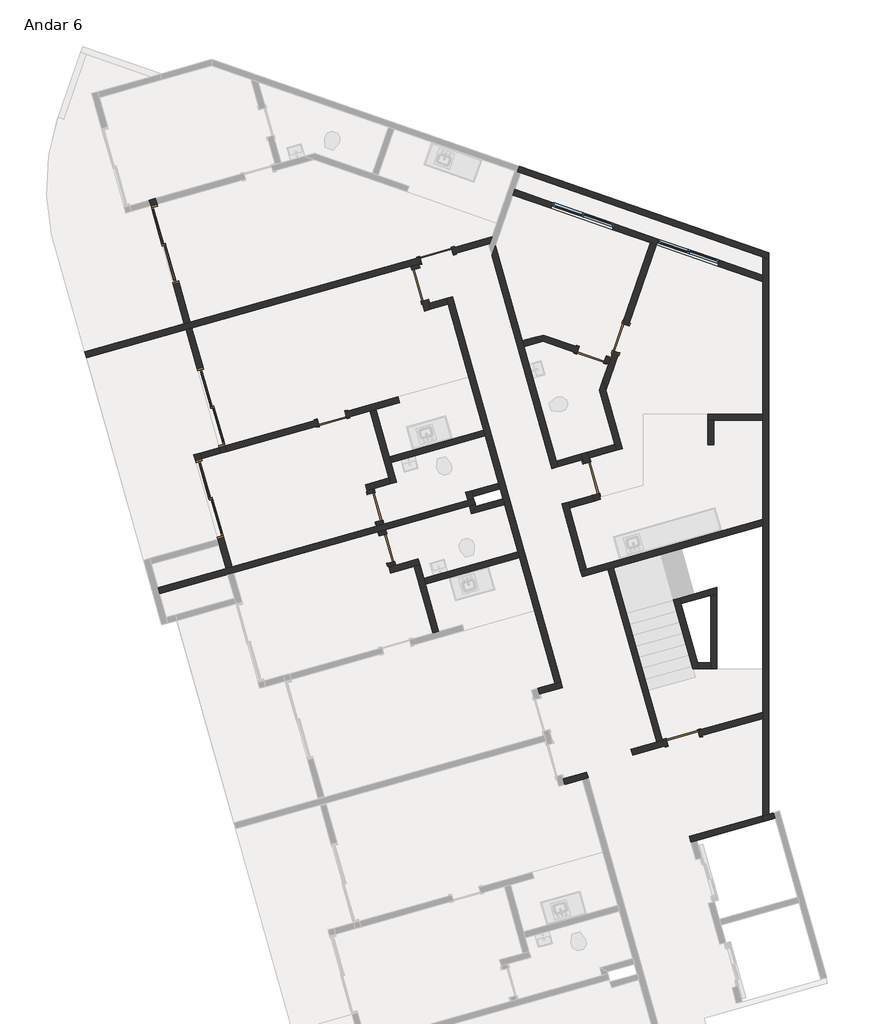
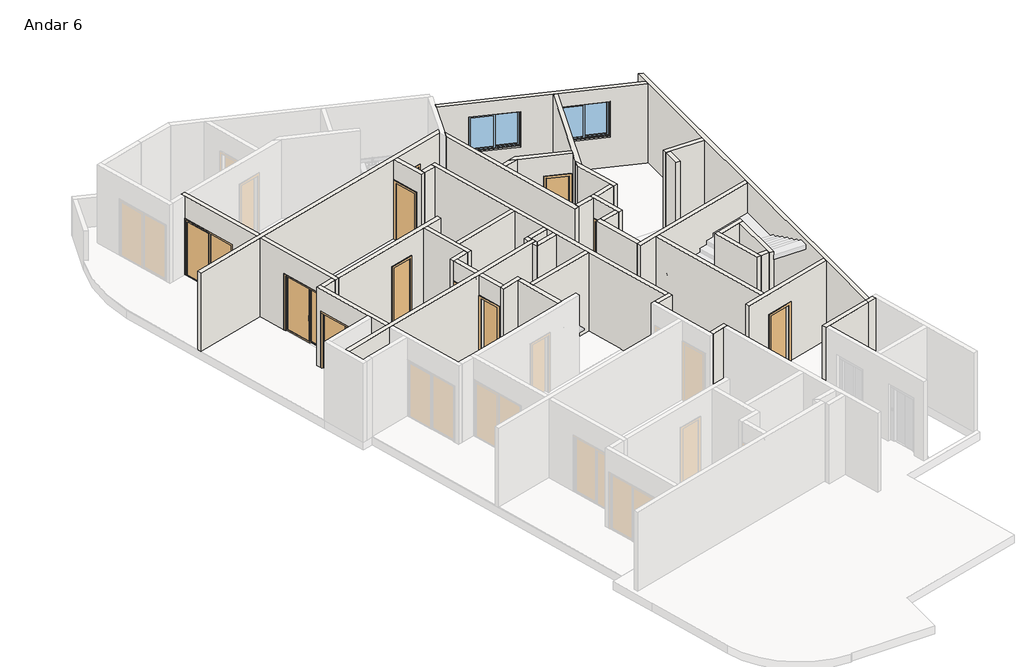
# One storey, part 2 of 3: 48 walls, 12 doors, 2 windows.
"""IFC4 building model written with IfcOpenShell, lengths in millimetres."""

from ifc_helpers import new_model, si_unit, frame, origin, place, context, project, spatial, polyline, outline, extrude, faceted_brep, transform, mapped, element, save
from components import p2_80cm_9d4be4ef, p2_80cm_083652d6, p3_70cm_ef4d15e3, p3_70cm_0a698c7c, p4_correr_200cm_eaaa0877, jx_160cm_e9e36a0c

model = new_model("IFC4")

# Units and contexts
model_context = context("Model", 3, world=origin())
ifc_project = project(units=[si_unit("LENGTHUNIT", "METRE", prefix="MILLI")], contexts=[model_context])

# Site, building, storey
site = spatial("IfcSite", under=ifc_project)
building = spatial("IfcBuilding", under=site)
storey = spatial("IfcBuildingStorey", under=building, Name="Andar 6", Elevation=68150.0)

# Doors
placement = place(None, origin())
p2_80cm_shape = p2_80cm_9d4be4ef(model_context)
element("IfcDoor", 1, ObjectType="M_Folha única1 : P2 - 80CM", at=placement, inside=storey, context=model_context, shape_type="MappedRepresentation", body=[
    mapped(p2_80cm_shape, transform((-83145.1128896, 30941.0402894, 68150.0), x_axis=(-0.9623628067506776, -0.2717679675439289, 0.0), y_axis=(0.2717679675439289, -0.9623628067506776, 0.0), z_axis=(0.0, 0.0, 1.0))),
])
element("IfcDoor", 2, ObjectType="M_Folha única1 : P2 - 80CM", at=placement, inside=storey, context=model_context, shape_type="MappedRepresentation", body=[
    mapped(p2_80cm_shape, transform((-79349.4097406, 25479.1041247, 68150.0), x_axis=(-0.27176796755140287, 0.962362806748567, 0.0), y_axis=(-0.962362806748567, -0.27176796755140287, 0.0), z_axis=(0.0, 0.0, 1.0))),
])
p2_80cm_2_shape = p2_80cm_083652d6(model_context)
element("IfcDoor", 3, ObjectType="M_Folha única1 : P2 - 80CM", at=placement, inside=storey, context=model_context, shape_type="MappedRepresentation", body=[
    mapped(p2_80cm_2_shape, transform((-83542.2049222, 30231.4150941, 68150.0), x_axis=(-0.2717679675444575, 0.9623628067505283, 0.0), y_axis=(-0.9623628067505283, -0.2717679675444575, 0.0), z_axis=(0.0, 0.0, 1.0))),
])
p3_70cm_shape = p3_70cm_ef4d15e3(model_context)
element("IfcDoor", 4, ObjectType="M_Folha única1 : P3 - 70CM", at=placement, inside=storey, context=model_context, shape_type="MappedRepresentation", body=[
    mapped(p3_70cm_shape, transform((-84650.97864, 24774.7108835, 68150.0), x_axis=(0.2717679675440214, -0.9623628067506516, 0.0), y_axis=(0.9623628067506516, 0.2717679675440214, 0.0), z_axis=(0.0, 0.0, 1.0))),
])
p3_70cm_2_shape = p3_70cm_0a698c7c(model_context)
element("IfcDoor", 5, ObjectType="M_Folha única1 : P3 - 70CM", at=placement, inside=storey, context=model_context, shape_type="MappedRepresentation", body=[
    mapped(p3_70cm_2_shape, transform((-84365.6222741, 23764.2299364, 68150.0), x_axis=(-0.2717679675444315, 0.9623628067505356, 0.0), y_axis=(-0.9623628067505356, -0.2717679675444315, 0.0), z_axis=(0.0, 0.0, 1.0))),
])
element("IfcDoor", 6, ObjectType="M_Folha única1 : P3 - 70CM", at=placement, inside=storey, context=model_context, shape_type="MappedRepresentation", body=[
    mapped(p3_70cm_2_shape, transform((-85705.4317558, 26944.8211633, 68150.0), x_axis=(0.9623628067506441, 0.2717679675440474, 0.0), y_axis=(-0.2717679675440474, 0.9623628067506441, 0.0), z_axis=(0.0, 0.0, 1.0))),
])
element("IfcDoor", 7, ObjectType="M_Folha única1 : P3 - 70CM", at=placement, inside=storey, context=model_context, shape_type="MappedRepresentation", body=[
    mapped(p3_70cm_2_shape, transform((-79346.1223746, 28509.6973665, 68150.0), x_axis=(0.9449109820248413, -0.32732741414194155, 0.0), y_axis=(0.32732741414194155, 0.9449109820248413, 0.0), z_axis=(0.0, 0.0, 1.0))),
])
element("IfcDoor", 8, ObjectType="M_Folha única1 : P3 - 70CM", at=placement, inside=storey, context=model_context, shape_type="MappedRepresentation", body=[
    mapped(p3_70cm_2_shape, transform((-78626.5662556, 28921.8732895, 68150.0), x_axis=(-0.32732741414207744, -0.9449109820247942, 0.0), y_axis=(0.9449109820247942, -0.32732741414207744, 0.0), z_axis=(0.0, 0.0, 1.0))),
])
p4_correr_200cm_shape = p4_correr_200cm_eaaa0877(model_context)
element("IfcDoor", 9, ObjectType="Porta de correr dupla envidraçada sem revestimento : P4 - CORRER - 200CM", at=placement, inside=storey, context=model_context, shape_type="MappedRepresentation", body=[
    mapped(p4_correr_200cm_shape, transform((-89799.7974026, 31217.9316171, 68150.0), x_axis=(0.27176796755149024, -0.9623628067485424, 0.0), y_axis=(0.9623628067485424, 0.27176796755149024, 0.0), z_axis=(0.0, 0.0, 1.0))),
])
element("IfcDoor", 10, ObjectType="Porta de correr dupla envidraçada sem revestimento : P4 - CORRER - 200CM", at=placement, inside=storey, context=model_context, shape_type="MappedRepresentation", body=[
    mapped(p4_correr_200cm_shape, transform((-88671.9603372, 27224.125969, 68150.0), x_axis=(-0.27176796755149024, 0.9623628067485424, 0.0), y_axis=(-0.9623628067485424, -0.27176796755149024, 0.0), z_axis=(0.0, 0.0, 1.0))),
])
element("IfcDoor", 11, ObjectType="Porta de correr dupla envidraçada sem revestimento : P4 - CORRER - 200CM", at=placement, inside=storey, context=model_context, shape_type="MappedRepresentation", body=[
    mapped(p4_correr_200cm_shape, transform((-88709.3738038, 24979.4758572, 68150.0), x_axis=(-0.2717679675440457, 0.9623628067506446, 0.0), y_axis=(-0.9623628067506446, -0.2717679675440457, 0.0), z_axis=(0.0, 0.0, 1.0))),
])
element("IfcDoor", 12, ObjectType="M_Folha única1 : PCF1 - 80CM", at=placement, inside=storey, context=model_context, shape_type="MappedRepresentation", body=[
    mapped(p2_80cm_shape, transform((-77103.5502958, 19127.1105693, 68150.0), x_axis=(-0.9623628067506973, -0.2717679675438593, 0.0), y_axis=(0.2717679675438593, -0.9623628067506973, 0.0), z_axis=(0.0, 0.0, 1.0))),
])

# Walls
element("IfcWall", 13, ObjectType="Básica .15 -  Interna", at=placement, inside=storey, context=model_context, shape_type="Brep", body=[
    faceted_brep([(-82901.0804648, 29892.9118737, 68150.0), (-82860.3152697, 29748.5574527, 68150.0), (-81990.6577736, 26668.9964711, 68150.0), (-81949.8925784, 26524.6420501, 68150.0), (-81623.7710174, 25369.806682, 68150.0), (-81583.0058223, 25225.452261, 68150.0), (-81515.0638304, 24984.8615593, 68150.0), (-81474.2986352, 24840.5071383, 68150.0), (-81148.1770742, 23685.6717702, 68150.0), (-81107.4118791, 23541.3173492, 68150.0), (-80237.7543829, 20461.7563676, 68150.0), (-80237.7543829, 20461.7563676, 71050.0), (-81107.4118791, 23541.3173492, 71050.0), (-81148.1770742, 23685.6717702, 71050.0), (-81474.2986352, 24840.5071383, 71050.0), (-81515.0638304, 24984.8615593, 71050.0), (-81583.0058223, 25225.452261, 71050.0), (-81623.7710174, 25369.806682, 71050.0), (-81949.8925784, 26524.6420501, 71050.0), (-81990.6577736, 26668.9964711, 71050.0), (-82860.3152697, 29748.5574527, 71050.0), (-82901.0804648, 29892.9118737, 71050.0), (-82756.7260438, 29933.6770689, 68150.0), (-82756.7260438, 29933.6770689, 71050.0), (-80093.3999619, 20502.5215627, 71050.0), (-80093.3999619, 20502.5215627, 68150.0)], [[[0, 1, 2, 3, 4, 5, 6, 7, 8, 9, 10, 11, 12, 13, 14, 15, 16, 17, 18, 19, 20, 21]], [[22, 23, 24, 25]], [[10, 9, 8, 7, 6, 5, 4, 3, 2, 1, 0, 22, 25]], [[21, 20, 19, 18, 17, 16, 15, 14, 13, 12, 11, 24, 23]], [[0, 21, 23, 22]], [[11, 10, 25, 24]]]),
])
element("IfcWall", 14, ObjectType="Básica .15 -  Interna", at=placement, inside=storey, context=model_context, shape_type="Brep", body=[
    faceted_brep([(-83750.2661164, 30692.2138999, 68150.0), (-83723.0893197, 30595.9776193, 68150.0), (-83723.0893197, 30595.9776193, 70250.0), (-83505.6749457, 29826.0873739, 70250.0), (-83505.6749457, 29826.0873739, 68150.0), (-83437.7329538, 29585.4966722, 68150.0), (-83437.7329538, 29585.4966722, 71050.0), (-83750.2661164, 30692.2138999, 71050.0), (-83578.7348987, 30636.7428144, 70250.0), (-83578.7348987, 30636.7428144, 68150.0), (-83605.9116954, 30732.9790951, 68150.0), (-83605.9116954, 30732.9790951, 71050.0), (-83334.1437279, 29770.6162883, 71050.0), (-83293.3785328, 29626.2618673, 71050.0), (-83293.3785328, 29626.2618673, 68150.0), (-83334.1437279, 29770.6162883, 68150.0), (-83361.3205246, 29866.852569, 68150.0), (-83361.3205246, 29866.852569, 70250.0)], [[[0, 1, 2, 3, 4, 5, 6, 7]], [[8, 9, 10, 11, 12, 13, 14, 15, 16, 17]], [[10, 9, 1, 0]], [[16, 15, 14, 5, 4]], [[7, 6, 13, 12, 11]], [[6, 5, 14, 13]], [[0, 7, 11, 10]], [[2, 1, 9, 8]], [[3, 2, 8, 17]], [[4, 3, 17, 16]]]),
])
element("IfcWall", 15, ObjectType="Básica .15 -  Interna", at=placement, inside=storey, context=model_context, shape_type="SweptSolid", body=[
    extrude(outline(polyline([(-82860.3152697, 29748.5574527), (-83293.3785328, 29626.2618673), (-83334.1437279, 29770.6162883), (-82901.0804648, 29892.9118737), (-82860.3152697, 29748.5574527)])), frame((0.0, 0.0, 68150.0), z_axis=(0.0, 0.0, 1.0), x_axis=(1.0, 0.0, 0.0)), (0.0, 0.0, 1.0), 2900.0),
])
element("IfcWall", 16, ObjectType="Básica .15 -  Interna", at=placement, inside=storey, context=model_context, shape_type="Brep", body=[
    faceted_brep([(-80093.3999619, 20502.5215627, 68150.0), (-80237.7543829, 20461.7563676, 68150.0), (-80670.817646, 20339.4607822, 68150.0), (-80670.817646, 20339.4607822, 71050.0), (-80237.7543829, 20461.7563676, 71050.0), (-80093.3999619, 20502.5215627, 71050.0), (-80052.6347668, 20358.1671417, 68150.0), (-80052.6347668, 20358.1671417, 71050.0), (-80630.0524508, 20195.1063612, 71050.0), (-80630.0524508, 20195.1063612, 68150.0)], [[[0, 1, 2, 3, 4, 5]], [[6, 7, 8, 9]], [[2, 1, 0, 6, 9]], [[5, 4, 3, 8, 7]], [[3, 2, 9, 8]], [[0, 5, 7, 6]]]),
])
element("IfcWall", 17, ObjectType="Básica .15 -  Interna", at=placement, inside=storey, context=model_context, shape_type="Brep", body=[
    faceted_brep([(-80004.9861255, 17981.6719056, 68150.0), (-79571.9228624, 18103.967491, 68150.0), (-79427.5684414, 18144.7326862, 68150.0), (-79427.5684414, 18144.7326862, 71050.0), (-79571.9228624, 18103.967491, 71050.0), (-80004.9861255, 17981.6719056, 71050.0), (-80045.7513206, 18126.0263266, 68150.0), (-80045.7513206, 18126.0263266, 71050.0), (-79468.3336366, 18289.0871072, 71050.0), (-79468.3336366, 18289.0871072, 68150.0)], [[[0, 1, 2, 3, 4, 5]], [[6, 7, 8, 9]], [[2, 1, 0, 6, 9]], [[5, 4, 3, 8, 7]], [[3, 2, 9, 8]], [[0, 5, 7, 6]]]),
])
element("IfcWall", 18, ObjectType="Básica .15 -  Interna", at=placement, inside=storey, context=model_context, shape_type="Brep", body=[
    faceted_brep([(-88305.9570711, 23274.9583478, 71050.0), (-88469.0178517, 23852.3760319, 71050.0), (-88509.7830468, 23996.7304529, 71050.0), (-89094.084177, 26065.8104874, 71050.0), (-89094.084177, 26065.8104874, 68150.0), (-89053.3189819, 25921.4560664, 68150.0), (-89053.3189819, 25921.4560664, 70250.0), (-88509.7830468, 23996.7304529, 70250.0), (-88509.7830468, 23996.7304529, 68150.0), (-88469.0178517, 23852.3760319, 68150.0), (-88305.9570711, 23274.9583478, 68150.0), (-88949.729756, 26106.5756825, 71050.0), (-88908.9645609, 25962.2212615, 71050.0), (-88161.6026501, 23315.723543, 71050.0), (-88161.6026501, 23315.723543, 68150.0), (-88365.4286258, 24037.495648, 68150.0), (-88365.4286258, 24037.495648, 70250.0), (-88908.9645609, 25962.2212615, 70250.0), (-88908.9645609, 25962.2212615, 68150.0), (-88949.729756, 26106.5756825, 68150.0)], [[[0, 1, 2, 3, 4, 5, 6, 7, 8, 9, 10]], [[11, 12, 13, 14, 15, 16, 17, 18, 19]], [[4, 19, 18, 5]], [[14, 10, 9, 8, 15]], [[3, 2, 1, 0, 13, 12, 11]], [[4, 3, 11, 19]], [[0, 10, 14, 13]], [[17, 6, 5, 18]], [[6, 17, 16, 7]], [[7, 16, 15, 8]]]),
])
element("IfcWall", 19, ObjectType="Básica .15 -  Interna", at=placement, inside=storey, context=model_context, shape_type="Brep", body=[
    faceted_brep([(-89143.3190618, 29169.2341801, 71050.0), (-88328.0151592, 26282.1457598, 71050.0), (-88287.249964, 26137.7913388, 71050.0), (-88287.249964, 26137.7913388, 68150.0), (-88328.0151592, 26282.1457598, 68150.0), (-88328.0151592, 26282.1457598, 70250.0), (-88871.5510943, 28206.8713733, 70250.0), (-88871.5510943, 28206.8713733, 68150.0), (-89143.3190618, 29169.2341801, 68150.0), (-88431.604385, 26097.0261437, 71050.0), (-88472.3695802, 26241.3805647, 71050.0), (-89287.6734828, 29128.468985, 71050.0), (-89287.6734828, 29128.468985, 68150.0), (-89015.9055153, 28166.1061782, 68150.0), (-89015.9055153, 28166.1061782, 70250.0), (-88472.3695802, 26241.3805647, 70250.0), (-88472.3695802, 26241.3805647, 68150.0), (-88431.604385, 26097.0261437, 68150.0)], [[[0, 1, 2, 3, 4, 5, 6, 7, 8]], [[9, 10, 11, 12, 13, 14, 15, 16, 17]], [[3, 17, 16, 4]], [[12, 8, 7, 13]], [[2, 1, 0, 11, 10, 9]], [[3, 2, 9, 17]], [[0, 8, 12, 11]], [[6, 14, 13, 7]], [[14, 6, 5, 15]], [[15, 5, 4, 16]]]),
])
element("IfcWall", 20, ObjectType="Básica .15 -  Interna", at=placement, inside=storey, context=model_context, shape_type="Brep", body=[
    faceted_brep([(-76904.7538909, 16570.3643175, 68150.0), (-76760.3994699, 16611.1295126, 68150.0), (-75147.8282189, 17066.5141226, 68150.0), (-75147.8282189, 17066.5141226, 71050.0), (-76760.3994699, 16611.1295126, 71050.0), (-76904.7538909, 16570.3643175, 71050.0), (-76945.5190861, 16714.7187385, 68150.0), (-76945.5190861, 16714.7187385, 71050.0), (-75147.8282189, 17222.3804954, 71050.0), (-75147.8282189, 17222.3804954, 68150.0)], [[[0, 1, 2, 3, 4, 5]], [[6, 7, 8, 9]], [[2, 1, 0, 6, 9]], [[5, 4, 3, 8, 7]], [[0, 5, 7, 6]], [[3, 2, 9, 8]]]),
])
element("IfcWall", 21, ObjectType="Básica .15 -  Interna", at=placement, inside=storey, context=model_context, shape_type="Brep", body=[
    faceted_brep([(-79570.9048554, 23078.5590693, 68150.0), (-78948.2127609, 23254.4051886, 68150.0), (-78803.8582924, 23295.1703972, 68150.0), (-75147.8282189, 24327.6207947, 68150.0), (-75147.8282189, 24327.6207947, 71050.0), (-78803.8582924, 23295.1703972, 71050.0), (-78948.2127609, 23254.4051886, 71050.0), (-79570.9048554, 23078.5590693, 71050.0), (-79611.6700506, 23222.9134903, 68150.0), (-79611.6700506, 23222.9134903, 71050.0), (-79467.3156296, 23263.6786855, 71050.0), (-75147.8282189, 24483.4871675, 71050.0), (-75147.8282189, 24483.4871675, 68150.0), (-79467.3156296, 23263.6786855, 68150.0)], [[[0, 1, 2, 3, 4, 5, 6, 7]], [[8, 9, 10, 11, 12, 13]], [[3, 2, 1, 0, 8, 13, 12]], [[7, 6, 5, 4, 11, 10, 9]], [[0, 7, 9, 8]], [[4, 3, 12, 11]]]),
])
element("IfcWall", 22, ObjectType="Básica .15 -  Interna", at=placement, inside=storey, context=model_context, shape_type="SweptSolid", body=[
    extrude(outline(polyline([(-77749.4687652, 19022.6385875), (-78948.2127609, 23254.4051886), (-78803.8582924, 23295.1703972), (-77605.1142967, 19063.4037961), (-77749.4687652, 19022.6385875)])), frame((0.0, 0.0, 68150.0), z_axis=(0.0, 0.0, 1.0), x_axis=(1.0, 0.0, 0.0)), (0.0, 0.0, 1.0), 2900.0),
])
element("IfcWall", 23, ObjectType="Básica .15 -  Interna", at=placement, inside=storey, context=model_context, shape_type="Brep", body=[
    faceted_brep([(-77508.878016, 19090.5805928, 70250.0), (-77508.878016, 19090.5805928, 68150.0), (-77605.1142967, 19063.4037961, 68150.0), (-77749.4687652, 19022.6385875, 68150.0), (-78375.5945972, 18845.8227925, 68150.0), (-78375.5945972, 18845.8227925, 71050.0), (-77749.4687652, 19022.6385875, 71050.0), (-77605.1142967, 19063.4037961, 71050.0), (-75147.8282189, 19757.3329862, 71050.0), (-75147.8282189, 19757.3329862, 68150.0), (-76738.9877706, 19307.9949669, 68150.0), (-76738.9877706, 19307.9949669, 70250.0), (-78334.829402, 18701.4683715, 68150.0), (-77468.1128209, 18946.2261718, 68150.0), (-77468.1128209, 18946.2261718, 70250.0), (-76698.2225755, 19163.6405459, 70250.0), (-76698.2225755, 19163.6405459, 68150.0), (-75147.8282189, 19601.4666134, 68150.0), (-75147.8282189, 19601.4666134, 71050.0), (-78334.829402, 18701.4683715, 71050.0)], [[[0, 1, 2, 3, 4, 5, 6, 7, 8, 9, 10, 11]], [[12, 13, 14, 15, 16, 17, 18, 19]], [[10, 9, 17, 16]], [[4, 3, 2, 1, 13, 12]], [[5, 4, 12, 19]], [[8, 7, 6, 5, 19, 18]], [[14, 13, 1, 0]], [[15, 14, 0, 11]], [[16, 15, 11, 10]], [[9, 8, 18, 17]]]),
])
element("IfcWall", 24, ObjectType="Básica .15 - Externa", at=placement, inside=storey, context=model_context, shape_type="Brep", body=[
    faceted_brep([(-75147.8282189, 30909.9128092, 71050.0), (-75147.8282189, 30909.9128092, 68150.0), (-75147.8282189, 30461.6117638, 68150.0), (-75147.8282189, 30302.8666514, 68150.0), (-75147.8282189, 27060.8243598, 68150.0), (-75147.8282189, 26910.8243598, 68150.0), (-75147.8282189, 24483.4871675, 68150.0), (-75147.8282189, 24327.6207947, 68150.0), (-75147.8282189, 19757.3329862, 68150.0), (-75147.8282189, 19601.4666134, 68150.0), (-75147.8282189, 17222.3804954, 68150.0), (-75147.8282189, 17222.3804954, 71050.0), (-75147.8282189, 19601.4666134, 71050.0), (-75147.8282189, 19757.3329862, 71050.0), (-75147.8282189, 24327.6207947, 71050.0), (-75147.8282189, 24483.4871675, 71050.0), (-75147.8282189, 26910.8243598, 71050.0), (-75147.8282189, 27060.8243598, 71050.0), (-75147.8282189, 30302.8666514, 71050.0), (-75147.8282189, 30461.6117638, 71050.0), (-74997.8282189, 30857.9511821, 68150.0), (-74997.8282189, 30857.9511821, 69450.0), (-74997.8282189, 30857.9511821, 70750.0), (-74997.8282189, 30857.9511821, 71050.0), (-74997.8282189, 17264.7399828, 71050.0), (-74997.8282189, 17264.7399828, 68150.0)], [[[0, 1, 2, 3, 4, 5, 6, 7, 8, 9, 10, 11, 12, 13, 14, 15, 16, 17, 18, 19]], [[20, 21, 22, 23, 24, 25]], [[10, 9, 8, 7, 6, 5, 4, 3, 2, 1, 20, 25]], [[0, 19, 18, 17, 16, 15, 14, 13, 12, 11, 24, 23]], [[11, 10, 25, 24]], [[0, 23, 22, 21, 20, 1]]]),
])
element("IfcWall", 25, ObjectType="Básica .15 -  Interna", at=placement, inside=storey, context=model_context, shape_type="Brep", body=[
    faceted_brep([(-80073.6755954, 24858.9302618, 68150.0), (-79611.6700506, 23222.9134903, 68150.0), (-79611.6700506, 23222.9134903, 71050.0), (-80073.6755954, 24858.9302618, 71050.0), (-79929.3211744, 24899.695457, 68150.0), (-79929.3211744, 24899.695457, 71050.0), (-79888.5559793, 24755.3410359, 71050.0), (-79467.3156296, 23263.6786855, 71050.0), (-79467.3156296, 23263.6786855, 68150.0), (-79888.5559793, 24755.3410359, 68150.0)], [[[0, 1, 2, 3]], [[4, 5, 6, 7, 8, 9]], [[1, 0, 4, 9, 8]], [[3, 2, 7, 6, 5]], [[0, 3, 5, 4]], [[2, 1, 8, 7]]]),
])
element("IfcWall", 26, ObjectType="Básica .15 -  Interna", at=placement, inside=storey, context=model_context, shape_type="Brep", body=[
    faceted_brep([(-79888.5559793, 24755.3410359, 68150.0), (-79272.1145689, 24929.4219834, 68150.0), (-79272.1145689, 24929.4219834, 71050.0), (-79888.5559793, 24755.3410359, 71050.0), (-79929.3211744, 24899.695457, 68150.0), (-79929.3211744, 24899.695457, 71050.0), (-79312.8797641, 25073.7764044, 71050.0), (-79312.8797641, 25073.7764044, 70250.0), (-79312.8797641, 25073.7764044, 68150.0)], [[[0, 1, 2, 3]], [[4, 5, 6, 7, 8]], [[1, 0, 4, 8]], [[3, 2, 6, 5]], [[0, 3, 5, 4]], [[2, 1, 8, 7, 6]]]),
])
element("IfcWall", 27, ObjectType="Básica .15 -  Interna", at=placement, inside=storey, context=model_context, shape_type="Brep", body=[
    faceted_brep([(-79598.23613, 26084.2573515, 68150.0), (-79557.4709349, 25939.9029305, 68150.0), (-79530.2941381, 25843.6666498, 68150.0), (-79530.2941381, 25843.6666498, 70250.0), (-79312.8797641, 25073.7764044, 70250.0), (-79312.8797641, 25073.7764044, 68150.0), (-79272.1145689, 24929.4219834, 68150.0), (-79272.1145689, 24929.4219834, 71050.0), (-79312.8797641, 25073.7764044, 71050.0), (-79557.4709349, 25939.9029305, 71050.0), (-79598.23613, 26084.2573515, 71050.0), (-79385.9397171, 25884.4318449, 70250.0), (-79385.9397171, 25884.4318449, 68150.0), (-79413.1165138, 25980.6681256, 68150.0), (-79453.881709, 26125.0225466, 68150.0), (-79453.881709, 26125.0225466, 71050.0), (-79413.1165138, 25980.6681256, 71050.0), (-79127.7601479, 24970.1871785, 71050.0), (-79127.7601479, 24970.1871785, 68150.0), (-79168.5253431, 25114.5415995, 68150.0), (-79168.5253431, 25114.5415995, 70250.0)], [[[0, 1, 2, 3, 4, 5, 6, 7, 8, 9, 10]], [[11, 12, 13, 14, 15, 16, 17, 18, 19, 20]], [[19, 18, 6, 5]], [[14, 13, 12, 2, 1, 0]], [[10, 9, 8, 7, 17, 16, 15]], [[7, 6, 18, 17]], [[0, 10, 15, 14]], [[3, 2, 12, 11]], [[4, 3, 11, 20]], [[5, 4, 20, 19]]]),
])
element("IfcWall", 28, ObjectType="Básica .15 -  Interna", at=placement, inside=storey, context=model_context, shape_type="Brep", body=[
    faceted_brep([(-81789.2550074, 30934.0017027, 68150.0), (-80318.2667662, 25725.0567879, 68150.0), (-80318.2667662, 25725.0567879, 71050.0), (-81789.2550074, 30934.0017027, 71050.0), (-81703.3880158, 31181.8778654, 68150.0), (-81703.3880158, 31181.8778654, 71050.0), (-81045.1503443, 28850.9797144, 71050.0), (-81004.3851492, 28706.6252933, 71050.0), (-80214.6775403, 25910.176404, 71050.0), (-80173.9123452, 25765.821983, 71050.0), (-80173.9123452, 25765.821983, 68150.0), (-80214.6775403, 25910.176404, 68150.0), (-81004.3851492, 28706.6252933, 68150.0), (-81045.1503443, 28850.9797144, 68150.0)], [[[0, 1, 2, 3]], [[4, 5, 6, 7, 8, 9, 10, 11, 12, 13]], [[1, 0, 4, 13, 12, 11, 10]], [[3, 2, 9, 8, 7, 6, 5]], [[0, 3, 5, 4]], [[2, 1, 10, 9]]]),
])
element("IfcWall", 29, ObjectType="Básica .15 -  Interna", at=placement, inside=storey, context=model_context, shape_type="Brep", body=[
    faceted_brep([(-88908.9645609, 25962.2212615, 68150.0), (-88431.604385, 26097.0261437, 68150.0), (-88431.604385, 26097.0261437, 71050.0), (-88908.9645609, 25962.2212615, 71050.0), (-88908.9645609, 25962.2212615, 70250.0), (-88949.729756, 26106.5756825, 68150.0), (-88949.729756, 26106.5756825, 71050.0), (-88472.3695802, 26241.3805647, 71050.0), (-88472.3695802, 26241.3805647, 68150.0)], [[[0, 1, 2, 3, 4]], [[5, 6, 7, 8]], [[1, 0, 5, 8]], [[3, 2, 7, 6]], [[0, 4, 3, 6, 5]], [[2, 1, 8, 7]]]),
])
element("IfcWall", 30, ObjectType="Básica .15 -  Interna", at=placement, inside=storey, context=model_context, shape_type="SweptSolid", body=[
    extrude(outline(polyline([(-79557.4709349, 25939.9029305), (-80173.9123452, 25765.821983), (-80214.6775403, 25910.176404), (-79598.23613, 26084.2573515), (-79557.4709349, 25939.9029305)])), frame((0.0, 0.0, 68150.0), z_axis=(0.0, 0.0, 1.0), x_axis=(1.0, 0.0, 0.0)), (0.0, 0.0, 1.0), 2900.0),
])
element("IfcWall", 31, ObjectType="Básica .15 -  Interna", at=placement, inside=storey, context=model_context, shape_type="Brep", body=[
    faceted_brep([(-91725.2428613, 28440.1077234, 68150.0), (-89287.6734828, 29128.468985, 68150.0), (-89143.3190618, 29169.2341801, 68150.0), (-83750.2661164, 30692.2138999, 68150.0), (-83605.9116954, 30732.9790951, 68150.0), (-83509.6754148, 30760.1558918, 68150.0), (-83509.6754148, 30760.1558918, 70250.0), (-82739.7851694, 30977.5702659, 70250.0), (-82739.7851694, 30977.5702659, 68150.0), (-81845.4155775, 31230.1371819, 68150.0), (-81845.4155775, 31230.1371819, 71050.0), (-83605.9116954, 30732.9790951, 71050.0), (-83750.2661164, 30692.2138999, 71050.0), (-89143.3190618, 29169.2341801, 71050.0), (-89287.6734828, 29128.468985, 71050.0), (-91725.2428613, 28440.1077234, 71050.0), (-83550.4406099, 30904.5103128, 70250.0), (-83550.4406099, 30904.5103128, 68150.0), (-89184.084257, 29313.5886011, 68150.0), (-89328.438678, 29272.823406, 68150.0), (-91766.0080564, 28584.4621444, 68150.0), (-91766.0080564, 28584.4621444, 71050.0), (-89328.438678, 29272.823406, 71050.0), (-89184.084257, 29313.5886011, 71050.0), (-81785.5670817, 31402.9045654, 71050.0), (-81785.5670817, 31402.9045654, 68150.0), (-82780.5503645, 31121.9246869, 68150.0), (-82780.5503645, 31121.9246869, 70250.0)], [[[0, 1, 2, 3, 4, 5, 6, 7, 8, 9, 10, 11, 12, 13, 14, 15]], [[16, 17, 18, 19, 20, 21, 22, 23, 24, 25, 26, 27]], [[26, 25, 9, 8]], [[20, 19, 18, 17, 5, 4, 3, 2, 1, 0]], [[15, 14, 13, 12, 11, 10, 24, 23, 22, 21]], [[0, 15, 21, 20]], [[10, 9, 25, 24]], [[6, 5, 17, 16]], [[7, 6, 16, 27]], [[8, 7, 27, 26]]]),
])
element("IfcWall", 32, ObjectType="Básica .15 -  Interna", at=placement, inside=storey, context=model_context, shape_type="Brep", body=[
    faceted_brep([(-90040.1533547, 32345.0314424, 71050.0), (-89999.3881596, 32200.6770214, 71050.0), (-89184.084257, 29313.5886011, 71050.0), (-89184.084257, 29313.5886011, 68150.0), (-89455.8522245, 30275.9514079, 68150.0), (-89455.8522245, 30275.9514079, 70250.0), (-89999.3881596, 32200.6770214, 70250.0), (-89999.3881596, 32200.6770214, 68150.0), (-90040.1533547, 32345.0314424, 68150.0), (-89328.438678, 29272.823406, 71050.0), (-90143.7425806, 32159.9118263, 71050.0), (-90184.5077758, 32304.2662473, 71050.0), (-90184.5077758, 32304.2662473, 68150.0), (-90143.7425806, 32159.9118262, 68150.0), (-90143.7425806, 32159.9118262, 70250.0), (-89600.2066455, 30235.1862128, 70250.0), (-89600.2066455, 30235.1862128, 68150.0), (-89328.438678, 29272.823406, 68150.0)], [[[0, 1, 2, 3, 4, 5, 6, 7, 8]], [[9, 10, 11, 12, 13, 14, 15, 16, 17]], [[12, 8, 7, 13]], [[3, 17, 16, 4]], [[2, 1, 0, 11, 10, 9]], [[0, 8, 12, 11]], [[3, 2, 9, 17]], [[15, 5, 4, 16]], [[5, 15, 14, 6]], [[6, 14, 13, 7]]]),
])
element("IfcWall", 33, ObjectType="Básica .15 -  Interna", at=placement, inside=storey, context=model_context, shape_type="Brep", body=[
    faceted_brep([(-89936.6922366, 22658.5779377, 68150.0), (-88265.191876, 23130.6039268, 68150.0), (-88120.837455, 23171.369122, 68150.0), (-84560.09507, 24176.9106019, 68150.0), (-84415.740649, 24217.675797, 68150.0), (-82192.6825654, 24845.459802, 68150.0), (-82192.6825654, 24845.459802, 71050.0), (-84415.740649, 24217.675797, 71050.0), (-84560.09507, 24176.9106019, 71050.0), (-88120.837455, 23171.369122, 71050.0), (-88265.191876, 23130.6039268, 71050.0), (-89936.6922366, 22658.5779377, 71050.0), (-89977.4574318, 22802.9323587, 68150.0), (-89977.4574318, 22802.9323587, 71050.0), (-88305.9570711, 23274.9583478, 71050.0), (-88161.6026501, 23315.723543, 71050.0), (-84600.8602651, 24321.2650229, 71050.0), (-84456.5058441, 24362.030218, 71050.0), (-82233.4477605, 24989.814223, 71050.0), (-82233.4477605, 24989.814223, 68150.0), (-84456.5058441, 24362.030218, 68150.0), (-84600.8602651, 24321.2650229, 68150.0), (-88161.6026501, 23315.723543, 68150.0), (-88305.9570711, 23274.9583478, 68150.0)], [[[0, 1, 2, 3, 4, 5, 6, 7, 8, 9, 10, 11]], [[12, 13, 14, 15, 16, 17, 18, 19, 20, 21, 22, 23]], [[5, 4, 3, 2, 1, 0, 12, 23, 22, 21, 20, 19]], [[6, 5, 19, 18]], [[11, 10, 9, 8, 7, 6, 18, 17, 16, 15, 14, 13]], [[0, 11, 13, 12]]]),
])
element("IfcWall", 34, ObjectType="Básica .15 -  Interna", at=placement, inside=storey, context=model_context, shape_type="Brep", body=[
    faceted_brep([(-81272.8781344, 32424.6503839, 68150.0), (-77897.5766162, 31255.4093243, 68150.0), (-77755.8399689, 31206.3102121, 68150.0), (-75147.8282189, 30302.8666514, 68150.0), (-75147.8282189, 30302.8666514, 71050.0), (-77755.8399689, 31206.3102121, 71050.0), (-77897.5766162, 31255.4093243, 71050.0), (-81272.8781344, 32424.6503839, 71050.0), (-78829.2985897, 31578.1679228, 69250.0), (-80341.1561609, 32101.8917854, 69250.0), (-80341.1561609, 32101.8917854, 70550.0), (-78829.2985897, 31578.1679228, 70550.0), (-76243.9823976, 30682.5863495, 69250.0), (-77755.8399689, 31206.3102121, 69250.0), (-77755.8399689, 31206.3102121, 70550.0), (-76243.9823976, 30682.5863495, 70550.0), (-81223.7790223, 32566.3870312, 68150.0), (-81223.7790223, 32566.3870312, 71050.0), (-75147.8282189, 30461.6117638, 71050.0), (-75147.8282189, 30461.6117638, 68150.0), (-78780.1994776, 31719.9045701, 69250.0), (-78780.1994776, 31719.9045701, 70550.0), (-80292.0570488, 32243.6284327, 70550.0), (-80292.0570488, 32243.6284327, 69250.0), (-76194.8832855, 30824.3229968, 69250.0), (-76194.8832855, 30824.3229968, 70550.0), (-77706.7408568, 31348.0468595, 70550.0), (-77706.7408568, 31348.0468595, 69250.0)], [[[0, 1, 2, 3, 4, 5, 6, 7], [8, 9, 10, 11], [12, 13, 14, 15]], [[16, 17, 18, 19], [20, 21, 22, 23], [24, 25, 26, 27]], [[3, 2, 1, 0, 16, 19]], [[7, 6, 5, 4, 18, 17]], [[0, 7, 17, 16]], [[21, 20, 8, 11]], [[22, 21, 11, 10]], [[23, 22, 10, 9]], [[20, 23, 9, 8]], [[25, 24, 12, 15]], [[26, 25, 15, 14]], [[27, 26, 14, 13]], [[24, 27, 13, 12]], [[4, 3, 19, 18]]]),
])
element("IfcWall", 35, ObjectType="Básica .15 - Externa", at=placement, inside=storey, context=model_context, shape_type="Brep", body=[
    faceted_brep([(-81156.3583355, 32991.3328194, 69450.0), (-81156.3583355, 32991.3328194, 68150.0), (-81156.3583355, 32991.3328194, 67850.0), (-81085.1216301, 32966.655652, 67850.0), (-74997.8282189, 30857.9511821, 67850.0), (-74997.8282189, 30857.9511821, 68150.0), (-74997.8282189, 30857.9511821, 69450.0), (-81085.1216301, 32966.655652, 69450.0), (-81107.2592234, 33133.0694667, 67850.0), (-81107.2592234, 33133.0694667, 68150.0), (-81107.2592234, 33133.0694667, 69450.0), (-81036.022518, 33108.3922993, 69450.0), (-74997.8282189, 31016.6962944, 69450.0), (-74997.8282189, 31016.6962944, 67850.0), (-81036.022518, 33108.3922993, 67850.0)], [[[0, 1, 2, 3, 4, 5, 6, 7]], [[8, 9, 10, 11, 12, 13, 14]], [[4, 3, 2, 8, 14, 13]], [[0, 7, 6, 12, 11, 10]], [[0, 10, 9, 8, 2, 1]], [[4, 13, 12, 6, 5]]]),
])
element("IfcWall", 36, ObjectType="Básica .15 -  Interna", at=placement, inside=storey, context=model_context, shape_type="SweptSolid", body=[
    extrude(outline(polyline([(-82179.094167, 24797.3416617), (-81515.0638304, 24984.8615593), (-81474.2986352, 24840.5071383), (-82282.6833929, 24612.2220455), (-82179.094167, 24797.3416617)])), frame((0.0, 0.0, 68150.0), z_axis=(0.0, 0.0, 1.0), x_axis=(1.0, 0.0, 0.0)), (0.0, 0.0, 1.0), 2900.0),
])
element("IfcWall", 37, ObjectType="Básica .15 -  Interna", at=placement, inside=storey, context=model_context, shape_type="SweptSolid", body=[
    extrude(outline(polyline([(-82192.6825654, 24845.459802), (-82179.094167, 24797.3416617), (-82282.6833929, 24612.2220455), (-82337.0369864, 24804.6946069), (-82192.6825654, 24845.459802)])), frame((0.0, 0.0, 68150.0), z_axis=(0.0, 0.0, 1.0), x_axis=(1.0, 0.0, 0.0)), (0.0, 0.0, 1.0), 2900.0),
])
element("IfcWall", 38, ObjectType="Básica .15 -  Interna", at=placement, inside=storey, context=model_context, shape_type="Brep", body=[
    faceted_brep([(-83593.7317942, 23514.6100515, 68150.0), (-84171.1494782, 23351.5492709, 68150.0), (-84315.5038992, 23310.7840758, 68150.0), (-84315.5038992, 23310.7840758, 71050.0), (-84171.1494782, 23351.5492709, 71050.0), (-83593.7317942, 23514.6100515, 71050.0), (-83552.966599, 23370.2556304, 68150.0), (-83552.966599, 23370.2556304, 71050.0), (-83697.32102, 23329.4904353, 71050.0), (-84274.7387041, 23166.4296548, 71050.0), (-84274.7387041, 23166.4296548, 68150.0), (-83697.32102, 23329.4904353, 68150.0)], [[[0, 1, 2, 3, 4, 5]], [[6, 7, 8, 9, 10, 11]], [[2, 1, 0, 6, 11, 10]], [[5, 4, 3, 9, 8, 7]], [[0, 5, 7, 6]], [[3, 2, 10, 9]]]),
])
element("IfcWall", 39, ObjectType="Básica .15 -  Interna", at=placement, inside=storey, context=model_context, shape_type="Brep", body=[
    faceted_brep([(-83090.9610542, 21734.238859, 68150.0), (-83417.0826153, 22889.0742271, 68150.0), (-83457.8478104, 23033.4286481, 68150.0), (-83552.966599, 23370.2556304, 68150.0), (-83552.966599, 23370.2556304, 71050.0), (-83457.8478104, 23033.4286481, 71050.0), (-83417.0826153, 22889.0742271, 71050.0), (-83090.9610542, 21734.238859, 71050.0), (-83235.3154752, 21693.4736638, 68150.0), (-83235.3154752, 21693.4736638, 71050.0), (-83697.32102, 23329.4904353, 71050.0), (-83697.32102, 23329.4904353, 68150.0)], [[[0, 1, 2, 3, 4, 5, 6, 7]], [[8, 9, 10, 11]], [[3, 2, 1, 0, 8, 11]], [[7, 6, 5, 4, 10, 9]], [[0, 7, 9, 8]], [[4, 3, 11, 10]]]),
])
element("IfcWall", 40, ObjectType="Básica .15 -  Interna", at=placement, inside=storey, context=model_context, shape_type="SweptSolid", body=[
    extrude(outline(polyline([(-83457.8478104, 23033.4286481), (-81148.1770742, 23685.6717702), (-81107.4118791, 23541.3173492), (-83417.0826153, 22889.0742271), (-83457.8478104, 23033.4286481)])), frame((0.0, 0.0, 68150.0), z_axis=(0.0, 0.0, 1.0), x_axis=(1.0, 0.0, 0.0)), (0.0, 0.0, 1.0), 2900.0),
])
element("IfcWall", 41, ObjectType="Básica .15 -  Interna", at=placement, inside=storey, context=model_context, shape_type="SweptSolid", body=[
    extrude(outline(polyline([(150.0, 0.0), (250.0, 0.0), (250.0, -2100.0), (950.0, -2100.0), (950.0, 0.0), (1050.0, 0.0), (1050.0, -2900.0), (150.0, -2900.0), (150.0, 0.0)])), frame((-84600.8602651, 24321.2650229, 68150.0), z_axis=(0.9623628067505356, 0.2717679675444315, 0.0), x_axis=(0.2717679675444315, -0.9623628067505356, 0.0)), (0.0, 0.0, 1.0), 150.0),
])
element("IfcWall", 42, ObjectType="Básica .15 -  Interna", at=placement, inside=storey, context=model_context, shape_type="Brep", body=[
    faceted_brep([(-84770.8044918, 27130.823522, 68150.0), (-84308.798947, 25494.8067505, 68150.0), (-84268.0337519, 25350.4523295, 68150.0), (-84268.0337519, 25350.4523295, 71050.0), (-84308.798947, 25494.8067505, 71050.0), (-84770.8044918, 27130.823522, 71050.0), (-84626.4500708, 27171.5887171, 68150.0), (-84626.4500708, 27171.5887171, 71050.0), (-84300.3285098, 26016.753349, 71050.0), (-84259.5633146, 25872.398928, 71050.0), (-84123.6793309, 25391.2175246, 71050.0), (-84123.6793309, 25391.2175246, 68150.0), (-84259.5633146, 25872.398928, 68150.0), (-84300.3285098, 26016.753349, 68150.0)], [[[0, 1, 2, 3, 4, 5]], [[6, 7, 8, 9, 10, 11, 12, 13]], [[2, 1, 0, 6, 13, 12, 11]], [[5, 4, 3, 10, 9, 8, 7]], [[3, 2, 11, 10]], [[0, 5, 7, 6]]]),
])
element("IfcWall", 43, ObjectType="Básica .15 -  Interna", at=placement, inside=storey, context=model_context, shape_type="SweptSolid", body=[
    extrude(outline(polyline([(-84300.3285098, 26016.753349), (-81990.6577736, 26668.9964711), (-81949.8925784, 26524.6420501), (-84259.5633146, 25872.398928), (-84300.3285098, 26016.753349)])), frame((0.0, 0.0, 68150.0), z_axis=(0.0, 0.0, 1.0), x_axis=(1.0, 0.0, 0.0)), (0.0, 0.0, 1.0), 2900.0),
])
element("IfcWall", 44, ObjectType="Básica .15 -  Interna", at=placement, inside=storey, context=model_context, shape_type="Brep", body=[
    faceted_brep([(-84308.798947, 25494.8067505, 68150.0), (-84886.2166311, 25331.74597, 68150.0), (-84886.2166311, 25331.74597, 71050.0), (-84308.798947, 25494.8067505, 71050.0), (-84268.0337519, 25350.4523295, 68150.0), (-84268.0337519, 25350.4523295, 71050.0), (-84701.0970149, 25228.1567441, 71050.0), (-84845.4514359, 25187.391549, 71050.0), (-84845.4514359, 25187.391549, 68150.0), (-84701.0970149, 25228.1567441, 68150.0)], [[[0, 1, 2, 3]], [[4, 5, 6, 7, 8, 9]], [[1, 0, 4, 9, 8]], [[3, 2, 7, 6, 5]], [[2, 1, 8, 7]], [[0, 3, 5, 4]]]),
])
element("IfcWall", 45, ObjectType="Básica .15 -  Interna", at=placement, inside=storey, context=model_context, shape_type="SweptSolid", body=[
    extrude(outline(polyline([(800.0, -2100.0), (800.0, 0.0), (900.0, 0.0), (900.0, -2900.0), (0.0, -2900.0), (0.0, 0.0), (100.0, 0.0), (100.0, -2100.0), (800.0, -2100.0)])), frame((-84845.4514359, 25187.391549, 68150.0), z_axis=(0.9623628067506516, 0.2717679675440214, 0.0), x_axis=(0.2717679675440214, -0.9623628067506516, 0.0)), (0.0, 0.0, 1.0), 150.0),
])
element("IfcWall", 46, ObjectType="Básica .15 -  Interna", at=placement, inside=storey, context=model_context, shape_type="Brep", body=[
    faceted_brep([(-82432.1557751, 25141.5215893, 68150.0), (-82377.8021816, 24949.0490279, 68150.0), (-82377.8021816, 24949.0490279, 71050.0), (-82432.1557751, 25141.5215893, 71050.0), (-82287.801354, 25182.2867844, 68150.0), (-82287.801354, 25182.2867844, 71050.0), (-82247.0361589, 25037.9323634, 71050.0), (-82233.4477605, 24989.814223, 71050.0), (-82233.4477605, 24989.814223, 68150.0), (-82247.0361589, 25037.9323634, 68150.0)], [[[0, 1, 2, 3]], [[4, 5, 6, 7, 8, 9]], [[1, 0, 4, 9, 8]], [[2, 1, 8, 7]], [[3, 2, 7, 6, 5]], [[0, 3, 5, 4]]]),
])
element("IfcWall", 47, ObjectType="Básica .15 -  Interna", at=placement, inside=storey, context=model_context, shape_type="SweptSolid", body=[
    extrude(outline(polyline([(-81583.0058223, 25225.452261), (-82247.0361589, 25037.9323634), (-82287.801354, 25182.2867844), (-81623.7710174, 25369.806682), (-81583.0058223, 25225.452261)])), frame((0.0, 0.0, 68150.0), z_axis=(0.0, 0.0, 1.0), x_axis=(1.0, 0.0, 0.0)), (0.0, 0.0, 1.0), 2900.0),
])
element("IfcWall", 48, ObjectType="Básica .15 -  Interna", at=placement, inside=storey, context=model_context, shape_type="Brep", body=[
    faceted_brep([(-76493.6479314, 26910.8243598, 68150.0), (-76343.6479314, 26910.8243598, 68150.0), (-75147.8282189, 26910.8243598, 68150.0), (-75147.8282189, 26910.8243598, 71050.0), (-76343.6479314, 26910.8243598, 71050.0), (-76493.6479314, 26910.8243598, 71050.0), (-76493.6479314, 27060.8243598, 68150.0), (-76493.6479314, 27060.8243598, 71050.0), (-75147.8282189, 27060.8243598, 71050.0), (-75147.8282189, 27060.8243598, 68150.0)], [[[0, 1, 2, 3, 4, 5]], [[6, 7, 8, 9]], [[2, 1, 0, 6, 9]], [[5, 4, 3, 8, 7]], [[0, 5, 7, 6]], [[3, 2, 9, 8]]]),
])
element("IfcWall", 49, ObjectType="Básica .15 -  Interna", at=placement, inside=storey, context=model_context, shape_type="SweptSolid", body=[
    extrude(outline(polyline([(-76343.6479314, 26910.8243598), (-76343.6479314, 26310.8243598), (-76493.6479314, 26310.8243598), (-76493.6479314, 26910.8243598), (-76343.6479314, 26910.8243598)])), frame((0.0, 0.0, 68150.0), z_axis=(0.0, 0.0, 1.0), x_axis=(1.0, 0.0, 0.0)), (0.0, 0.0, 1.0), 2900.0),
])
element("IfcWall", 50, ObjectType="Básica .15 -  Interna", at=placement, inside=storey, context=model_context, shape_type="Brep", body=[
    faceted_brep([(-78877.464657, 28426.7218055, 68150.0), (-78990.8539749, 28466.0010952, 68150.0), (-78990.8539749, 28466.0010952, 70250.0), (-79652.2916623, 28695.1302851, 70250.0), (-79652.2916623, 28695.1302851, 68150.0), (-80525.6718652, 28997.6786614, 68150.0), (-80525.6718652, 28997.6786614, 71050.0), (-78877.464657, 28426.7218055, 71050.0), (-79039.953087, 28324.2644479, 70250.0), (-79039.953087, 28324.2644479, 68150.0), (-78926.5637691, 28284.9851582, 68150.0), (-78926.5637691, 28284.9851582, 71050.0), (-80530.2499593, 28840.5194505, 71050.0), (-80778.126122, 28926.3864421, 71050.0), (-80778.126122, 28926.3864421, 68150.0), (-80530.2499593, 28840.5194505, 68150.0), (-79701.3907744, 28553.3936378, 68150.0), (-79701.3907744, 28553.3936378, 70250.0)], [[[0, 1, 2, 3, 4, 5, 6, 7]], [[8, 9, 10, 11, 12, 13, 14, 15, 16, 17]], [[10, 9, 1, 0]], [[16, 15, 14, 5, 4]], [[7, 6, 13, 12, 11]], [[2, 1, 9, 8]], [[3, 2, 8, 17]], [[4, 3, 17, 16]], [[6, 5, 14, 13]], [[0, 7, 11, 10]]]),
])
element("IfcWall", 51, ObjectType="Básica .15 -  Interna", at=placement, inside=storey, context=model_context, shape_type="SweptSolid", body=[
    extrude(outline(polyline([(-81045.1503443, 28850.9797144), (-80778.126122, 28926.3864421), (-80530.2499593, 28840.5194505), (-81004.3851492, 28706.6252933), (-81045.1503443, 28850.9797144)])), frame((0.0, 0.0, 68150.0), z_axis=(0.0, 0.0, 1.0), x_axis=(1.0, 0.0, 0.0)), (0.0, 0.0, 1.0), 2900.0),
])
element("IfcWall", 52, ObjectType="Básica .15 -  Interna", at=placement, inside=storey, context=model_context, shape_type="Brep", body=[
    faceted_brep([(-79146.9727346, 27648.7205404, 68150.0), (-78771.1333302, 26317.8283554, 68150.0), (-78730.3681351, 26173.4739343, 68150.0), (-78730.3681351, 26173.4739343, 71050.0), (-78771.1333302, 26317.8283554, 71050.0), (-79146.9727346, 27648.7205404, 71050.0), (-79061.105743, 27896.5967032, 68150.0), (-79061.105743, 27896.5967032, 71050.0), (-78989.8135237, 27644.1424464, 71050.0), (-78586.013714, 26214.2391295, 71050.0), (-78586.013714, 26214.2391295, 68150.0), (-78989.8135237, 27644.1424464, 68150.0)], [[[0, 1, 2, 3, 4, 5]], [[6, 7, 8, 9, 10, 11]], [[2, 1, 0, 6, 11, 10]], [[5, 4, 3, 9, 8, 7]], [[0, 5, 7, 6]], [[3, 2, 10, 9]]]),
])
element("IfcWall", 53, ObjectType="Básica .15 -  Interna", at=placement, inside=storey, context=model_context, shape_type="Brep", body=[
    faceted_brep([(-78811.9991742, 28615.7040019, 70250.0), (-78811.9991742, 28615.7040019, 68150.0), (-78877.464657, 28426.7218055, 68150.0), (-78926.5637691, 28284.9851582, 68150.0), (-79061.105743, 27896.5967032, 68150.0), (-79061.105743, 27896.5967032, 71050.0), (-78926.5637691, 28284.9851582, 71050.0), (-78877.464657, 28426.7218055, 71050.0), (-77897.5766162, 31255.4093243, 71050.0), (-77897.5766162, 31255.4093243, 68150.0), (-78582.8699843, 29277.1416893, 68150.0), (-78582.8699843, 29277.1416893, 70250.0), (-78989.8135237, 27644.1424464, 68150.0), (-78670.2625269, 28566.6048898, 68150.0), (-78670.2625269, 28566.6048898, 70250.0), (-78441.133337, 29228.0425772, 70250.0), (-78441.133337, 29228.0425772, 68150.0), (-77755.8399689, 31206.3102121, 68150.0), (-77755.8399689, 31206.3102121, 69250.0), (-77755.8399689, 31206.3102121, 70550.0), (-77755.8399689, 31206.3102121, 71050.0), (-78989.8135237, 27644.1424464, 71050.0)], [[[0, 1, 2, 3, 4, 5, 6, 7, 8, 9, 10, 11]], [[12, 13, 14, 15, 16, 17, 18, 19, 20, 21]], [[10, 9, 17, 16]], [[4, 3, 2, 1, 13, 12]], [[8, 7, 6, 5, 21, 20]], [[14, 13, 1, 0]], [[15, 14, 0, 11]], [[16, 15, 11, 10]], [[5, 4, 12, 21]], [[9, 8, 20, 19, 18, 17]]]),
])
element("IfcWall", 54, ObjectType="Básica .15 -  Interna", at=placement, inside=storey, context=model_context, shape_type="Brep", body=[
    faceted_brep([(-85348.2221759, 26967.7627414, 70250.0), (-85348.2221759, 26967.7627414, 68150.0), (-84770.8044918, 27130.823522, 68150.0), (-84626.4500708, 27171.5887171, 68150.0), (-84049.0323868, 27334.6494976, 68150.0), (-84049.0323868, 27334.6494976, 71050.0), (-84626.4500708, 27171.5887171, 71050.0), (-84770.8044918, 27130.823522, 71050.0), (-88287.249964, 26137.7913388, 71050.0), (-88287.249964, 26137.7913388, 68150.0), (-86021.8761406, 26777.5251642, 68150.0), (-86021.8761406, 26777.5251642, 70250.0), (-84089.7975819, 27479.0039186, 68150.0), (-85388.987371, 27112.1171625, 68150.0), (-85388.987371, 27112.1171625, 70250.0), (-86062.6413357, 26921.8795852, 70250.0), (-86062.6413357, 26921.8795852, 68150.0), (-88328.0151592, 26282.1457598, 68150.0), (-88328.0151592, 26282.1457598, 71050.0), (-84089.7975819, 27479.0039186, 71050.0)], [[[0, 1, 2, 3, 4, 5, 6, 7, 8, 9, 10, 11]], [[12, 13, 14, 15, 16, 17, 18, 19]], [[10, 9, 17, 16]], [[4, 3, 2, 1, 13, 12]], [[5, 4, 12, 19]], [[8, 7, 6, 5, 19, 18]], [[16, 15, 11, 10]], [[15, 14, 0, 11]], [[14, 13, 1, 0]], [[9, 8, 18, 17]]]),
])
element("IfcWall", 55, ObjectType="Básica .15 -  Interna", at=placement, inside=storey, context=model_context, shape_type="SweptSolid", body=[
    extrude(outline(polyline([(-78730.3681351, 26173.4739343), (-79413.1165138, 25980.6681256), (-79453.881709, 26125.0225466), (-78771.1333302, 26317.8283554), (-78730.3681351, 26173.4739343)])), frame((0.0, 0.0, 68150.0), z_axis=(0.0, 0.0, 1.0), x_axis=(1.0, 0.0, 0.0)), (0.0, 0.0, 1.0), 2900.0),
])
element("IfcWall", 56, ObjectType="Básica .15 -  Interna", at=placement, inside=storey, context=model_context, shape_type="Brep", body=[
    faceted_brep([(-76703.5854218, 20819.1154254, 68150.0), (-76745.9449092, 20969.1154254, 68150.0), (-77152.5348621, 22408.8989724, 68150.0), (-77193.3000572, 22553.2533934, 68150.0), (-77193.3000572, 22553.2533934, 71050.0), (-77152.5348621, 22408.8989724, 71050.0), (-76745.9449092, 20969.1154254, 71050.0), (-76703.5854218, 20819.1154254, 71050.0), (-76859.4517946, 20819.1154254, 68150.0), (-76859.4517946, 20819.1154254, 71050.0), (-77337.6544782, 22512.4881983, 71050.0), (-77337.6544782, 22512.4881983, 68150.0)], [[[0, 1, 2, 3, 4, 5, 6, 7]], [[8, 9, 10, 11]], [[3, 2, 1, 0, 8, 11]], [[7, 6, 5, 4, 10, 9]], [[4, 3, 11, 10]], [[0, 7, 9, 8]]]),
])
element("IfcWall", 57, ObjectType="Básica .15 -  Interna", at=placement, inside=storey, context=model_context, shape_type="Brep", body=[
    faceted_brep([(-77152.5348621, 22408.8989724, 68150.0), (-76425.2862396, 22614.2714979, 68150.0), (-76275.2862396, 22656.6309852, 68150.0), (-76275.2862396, 22656.6309852, 71050.0), (-76425.2862396, 22614.2714979, 71050.0), (-77152.5348621, 22408.8989724, 71050.0), (-77193.3000572, 22553.2533934, 68150.0), (-77193.3000572, 22553.2533934, 71050.0), (-76275.2862396, 22812.497358, 71050.0), (-76275.2862396, 22812.497358, 68150.0)], [[[0, 1, 2, 3, 4, 5]], [[6, 7, 8, 9]], [[2, 1, 0, 6, 9]], [[5, 4, 3, 8, 7]], [[0, 5, 7, 6]], [[3, 2, 9, 8]]]),
])
element("IfcWall", 58, ObjectType="Básica .15 -  Interna", at=placement, inside=storey, context=model_context, shape_type="Brep", body=[
    faceted_brep([(-76425.2862396, 22614.2714979, 68150.0), (-76425.2862396, 20969.1154254, 68150.0), (-76425.2862396, 20819.1154254, 68150.0), (-76425.2862396, 20819.1154254, 71050.0), (-76425.2862396, 20969.1154254, 71050.0), (-76425.2862396, 22614.2714979, 71050.0), (-76275.2862396, 22656.6309852, 68150.0), (-76275.2862396, 22656.6309852, 71050.0), (-76275.2862396, 20819.1154254, 71050.0), (-76275.2862396, 20819.1154254, 68150.0)], [[[0, 1, 2, 3, 4, 5]], [[6, 7, 8, 9]], [[2, 1, 0, 6, 9]], [[5, 4, 3, 8, 7]], [[0, 5, 7, 6]], [[3, 2, 9, 8]]]),
])
element("IfcWall", 59, ObjectType="Básica .15 -  Interna", at=placement, inside=storey, context=model_context, shape_type="SweptSolid", body=[
    extrude(outline(polyline([(-76745.9449092, 20969.1154254), (-76425.2862396, 20969.1154254), (-76425.2862396, 20819.1154254), (-76703.5854218, 20819.1154254), (-76745.9449092, 20969.1154254)])), frame((0.0, 0.0, 68150.0), z_axis=(0.0, 0.0, 1.0), x_axis=(1.0, 0.0, 0.0)), (0.0, 0.0, 1.0), 2900.0),
])
element("IfcWall", 60, ObjectType="Básica .15 - Externa", at=placement, inside=storey, context=model_context, shape_type="Brep", body=[
    faceted_brep([(-75147.8282189, 17066.5141226, 68150.0), (-74840.4856705, 17153.3066079, 68150.0), (-74840.4856705, 17153.3066079, 71050.0), (-75147.8282189, 17066.5141226, 71050.0), (-75147.8282189, 17222.3804954, 68150.0), (-75147.8282189, 17222.3804954, 71050.0), (-74997.8282189, 17264.7399828, 71050.0), (-74881.2508656, 17297.6610289, 71050.0), (-74881.2508656, 17297.6610289, 68150.0), (-74997.8282189, 17264.7399828, 68150.0)], [[[0, 1, 2, 3]], [[4, 5, 6, 7, 8, 9]], [[1, 0, 4, 9, 8]], [[3, 2, 7, 6, 5]], [[2, 1, 8, 7]], [[0, 3, 5, 4]]]),
])

# Windows
jx_160cm_shape = jx_160cm_e9e36a0c(model_context)
element("IfcWindow", 61, ObjectType="Janela de correr - 2 Painéis : JX - 160CM", at=placement, inside=storey, context=model_context, shape_type="MappedRepresentation", body=[
    mapped(jx_160cm_shape, transform((-79560.6778192, 31910.8981777, 68600.0), x_axis=(-0.9449109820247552, 0.3273274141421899, 0.0), y_axis=(-0.3273274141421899, -0.9449109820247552, 0.0), z_axis=(0.0, 0.0, 1.0))),
])
element("IfcWindow", 62, ObjectType="Janela de correr - 2 Painéis : JX - 160CM", at=placement, inside=storey, context=model_context, shape_type="MappedRepresentation", body=[
    mapped(jx_160cm_shape, transform((-76975.3616272, 31015.3166045, 68600.0), x_axis=(-0.9449109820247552, 0.3273274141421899, 0.0), y_axis=(-0.3273274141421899, -0.9449109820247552, 0.0), z_axis=(0.0, 0.0, 1.0))),
])

save(model, "model.ifc")
